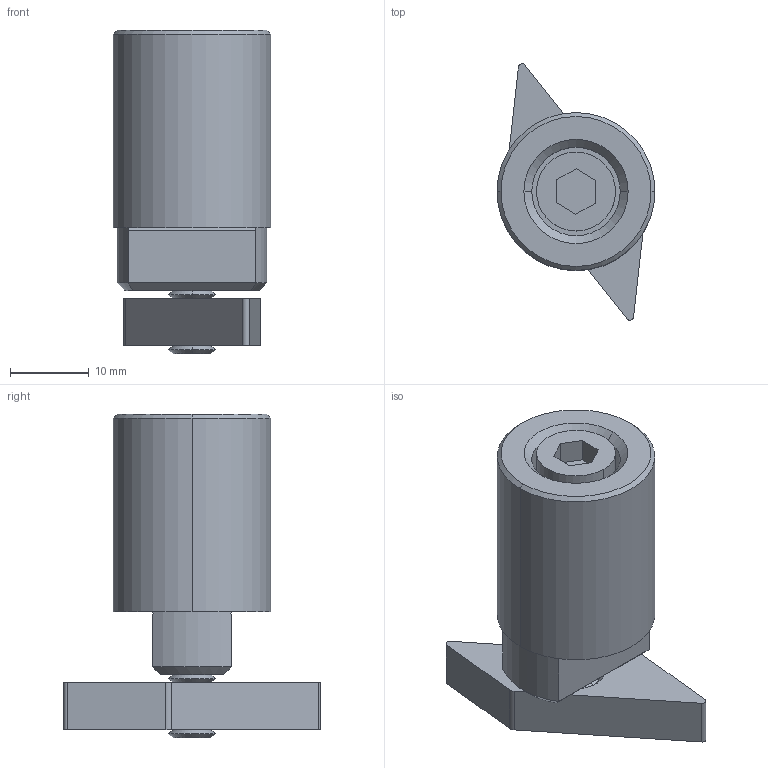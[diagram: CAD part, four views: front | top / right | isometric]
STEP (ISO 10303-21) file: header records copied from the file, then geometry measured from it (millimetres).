
FILE_DESCRIPTION (( 'STEP AP203' ), '1' );
FILE_NAME ('30200.W0210.step', '2017-06-30T11:03:42', ( 'User' ), ( '' ), 'SwSTEP 2.0', 'SolidWorks 2009', '' );
FILE_SCHEMA (( 'CONFIG_CONTROL_DESIGN' ));
Length unit declared in the file: millimetre
Products named in the file (4): 30200.W0210; Part1_30200.W0210; screw_M6x35; Wedge_30200.W0210
Assembly tree (3 placements, depth 2):
  30200.W0210
    Part1_30200.W0210
    screw_M6x35
    Wedge_30200.W0210
Bounding box: 20 x 32.5 x 41 mm (x, y, z)
Volume: 10352.3 mm3; surface area: 5463.5 mm2
Topology: 3 solids, 3 shells, 104 faces, 225 edges, 131 vertices
Faces by surface type: cone 51, plane 34, cylinder 19
Entity records: 3208 total; most frequent: DIRECTION 530, CARTESIAN_POINT 478, ORIENTED_EDGE 450, EDGE_CURVE 225, AXIS2_PLACEMENT_3D 199, VECTOR 132, LINE 132, VERTEX_POINT 131
